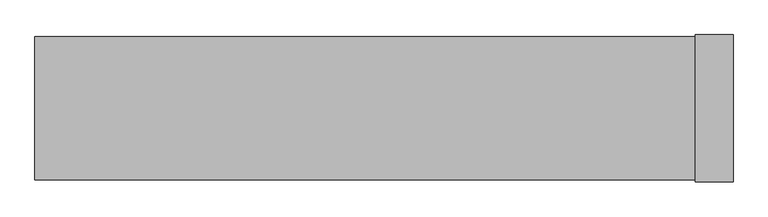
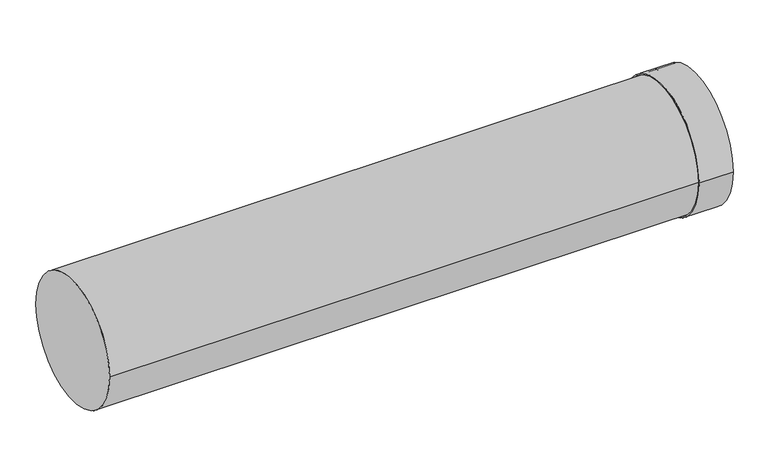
"""IFC4 building model written with IfcOpenShell, lengths in millimetres: duct fitting geometry, NLRS_57_DUF_UN_extension EPS_M&G : ø125 - ø200."""

from ifc_helpers import new_model, si_unit, point, frame, origin, origin_2d, place, context, project, spatial, polyline, circle_curve, trimmed, segment, composite_curve, outline, extrude, source, transform, mapped, element, save
from ifc_brep_helpers import plane_surface, cylinder_surface, revolved_surface, advanced_brep


def duct_fitting_e646f984(model_context):
    return source(origin(), model_context, "Body", "SolidModel", [
        advanced_brep(
        [(973.0, -108.5, 0.0), (973.0, 108.5, 0.0), (1029.0, 108.5, 0.0), (1029.0, -108.5, 0.0), (973.0, -106.5, 0.0), (973.0, 106.5, 0.0), (1000.0, -106.5, 0.0), (1000.0, 106.5, 0.0), (1000.0, -104.5, 0.0), (1000.0, 104.5, 0.0), (1002.0, -106.5, 0.0), (1002.0, 106.5, 0.0), (1002.0, 104.5, 0.0), (1002.0, -104.5, 0.0), (1029.0, -106.5, 0.0), (1029.0, 106.5, 0.0)],
        [
            (0, 1, circle_curve(frame((973.0, 0.0, 0.0), z_axis=(1.0, 0.0, 0.0), x_axis=(0.0, 1.0, 0.0)), 108.5)),
            (1, 2),
            (2, 3, circle_curve(frame((1029.0, 0.0, 0.0), z_axis=(-1.0, 0.0, 0.0), x_axis=(0.0, 1.0, 0.0)), 108.5)),
            (3, 0),
            (1, 0, circle_curve(frame((973.0, 0.0, 0.0), z_axis=(1.0, 0.0, 0.0), x_axis=(0.0, 1.0, 0.0)), 108.5)),
            (3, 2, circle_curve(frame((1029.0, 0.0, 0.0), z_axis=(-1.0, 0.0, 0.0), x_axis=(0.0, 1.0, 0.0)), 108.5)),
            (4, 5, circle_curve(frame((973.0, 0.0, 0.0), z_axis=(1.0, 0.0, 0.0), x_axis=(0.0, 1.0, 0.0)), 106.5)),
            (5, 1),
            (0, 4),
            (5, 4, circle_curve(frame((973.0, 0.0, 0.0), z_axis=(1.0, 0.0, 0.0), x_axis=(0.0, 1.0, 0.0)), 106.5)),
            (6, 7, circle_curve(frame((1000.0, 0.0, 0.0), z_axis=(1.0, 0.0, 0.0), x_axis=(0.0, 1.0, 0.0)), 106.5)),
            (7, 5),
            (4, 6),
            (7, 6, circle_curve(frame((1000.0, 0.0, 0.0), z_axis=(1.0, 0.0, 0.0), x_axis=(0.0, 1.0, 0.0)), 106.5)),
            (8, 9, circle_curve(frame((1000.0, 0.0, 0.0), z_axis=(1.0, 0.0, 0.0), x_axis=(0.0, 1.0, 0.0)), 104.5)),
            (9, 7),
            (6, 8),
            (9, 8, circle_curve(frame((1000.0, 0.0, 0.0), z_axis=(1.0, 0.0, 0.0), x_axis=(0.0, 1.0, 0.0)), 104.5)),
            (10, 11, circle_curve(frame((1002.0, 0.0, 0.0), z_axis=(1.0, 0.0, 0.0), x_axis=(0.0, 1.0, 0.0)), 106.5)),
            (11, 12),
            (12, 13, circle_curve(frame((1002.0, 0.0, 0.0), z_axis=(-1.0, 0.0, 0.0), x_axis=(0.0, 1.0, 0.0)), 104.5)),
            (13, 10),
            (11, 10, circle_curve(frame((1002.0, 0.0, 0.0), z_axis=(1.0, 0.0, 0.0), x_axis=(0.0, 1.0, 0.0)), 106.5)),
            (13, 12, circle_curve(frame((1002.0, 0.0, 0.0), z_axis=(-1.0, 0.0, 0.0), x_axis=(0.0, 1.0, 0.0)), 104.5)),
            (14, 15, circle_curve(frame((1029.0, 0.0, 0.0), z_axis=(1.0, 0.0, 0.0), x_axis=(0.0, 1.0, 0.0)), 106.5)),
            (15, 11),
            (10, 14),
            (15, 14, circle_curve(frame((1029.0, 0.0, 0.0), z_axis=(1.0, 0.0, 0.0), x_axis=(0.0, 1.0, 0.0)), 106.5)),
            (2, 15),
            (14, 3),
            (12, 9),
            (8, 13),
        ],
        [
            cylinder_surface(frame((2976.5, 0.0, 0.0), z_axis=(-1.0, 0.0, 0.0), x_axis=(0.0, 1.0, 0.0)), 108.5),
            plane_surface(frame((973.0, 0.0, 0.0), z_axis=(-1.0, 0.0, 0.0), x_axis=(0.0, 1.0, 0.0))),
            revolved_surface(polyline([(973.0, 106.5, 0.0), (1000.0, 106.5, 0.0)]), (2976.5, 0.0, 0.0), (-1.0, 0.0, 0.0)),
            plane_surface(frame((1000.0, 0.0, 0.0), z_axis=(-1.0, 0.0, 0.0), x_axis=(0.0, 1.0, 0.0))),
            plane_surface(frame((1002.0, 0.0, 0.0), z_axis=(1.0, 0.0, 0.0), x_axis=(0.0, 1.0, 0.0))),
            revolved_surface(polyline([(1002.0, 106.5, 0.0), (1029.0, 106.5, 0.0)]), (2976.5, 0.0, 0.0), (-1.0, 0.0, 0.0)),
            plane_surface(frame((1029.0, 0.0, 0.0), z_axis=(1.0, 0.0, 0.0), x_axis=(0.0, 1.0, 0.0))),
            revolved_surface(polyline([(1000.0, 104.5, 0.0), (1002.0, 104.5, 0.0)]), (2976.5, 0.0, 0.0), (-1.0, 0.0, 0.0)),
        ],
        [
            (0, [[1, 2, 3, 4]]),
            (0, [[5, -4, 6, -2]]),
            (1, [[7, 8, -1, 9]]),
            (1, [[10, -9, -5, -8]]),
            (2, [[11, 12, -7, 13]]),
            (2, [[14, -13, -10, -12]]),
            (3, [[15, 16, -11, 17]]),
            (3, [[18, -17, -14, -16]]),
            (4, [[19, 20, 21, 22]]),
            (4, [[23, -22, 24, -20]]),
            (5, [[25, 26, -19, 27]]),
            (5, [[28, -27, -23, -26]]),
            (6, [[-3, 29, -25, 30]]),
            (6, [[-6, -30, -28, -29]]),
            (7, [[-21, 31, -15, 32]]),
            (7, [[-24, -32, -18, -31]]),
        ],
    ),
        extrude(outline(composite_curve([segment(trimmed(circle_curve(origin_2d(), 105.5), [point((-105.5, 0.0))], [point((105.5, 0.0))], False, "CARTESIAN"), True, "CONTINUOUS"), segment(trimmed(circle_curve(origin_2d(), 105.5), [point((105.5, 0.0))], [point((-105.5, 0.0))], False, "CARTESIAN"), True, "CONTINUOUS")], self_intersect=False)), frame((0.0, 0.0, 0.0), z_axis=(1.0, 0.0, 0.0), x_axis=(0.0, 1.0, 0.0)), (0.0, 0.0, 1.0), 1000.0),
    ])


if __name__ == "__main__":
    model = new_model("IFC4")
    model_context = context("Model", 3, world=origin())
    ifc_project = project(units=[si_unit("LENGTHUNIT", "METRE", prefix="MILLI")], contexts=[model_context])
    site = spatial("IfcSite", under=ifc_project)
    building = spatial("IfcBuilding", under=site)
    placement = place(None, origin())
    duct_fitting_shape = duct_fitting_e646f984(model_context)
    element("IfcDuctFitting", 1, ObjectType="NLRS_57_DUF_UN_extension EPS_M&G : ø125 - ø200", at=placement, inside=building, context=model_context, shape_type="MappedRepresentation", body=[
        mapped(duct_fitting_shape, transform((0.0, 0.0, 0.0), x_axis=(1.0, 0.0, 0.0), y_axis=(0.0, 1.0, 0.0), z_axis=(0.0, 0.0, 1.0))),
    ])
    save(model, "model.ifc")
